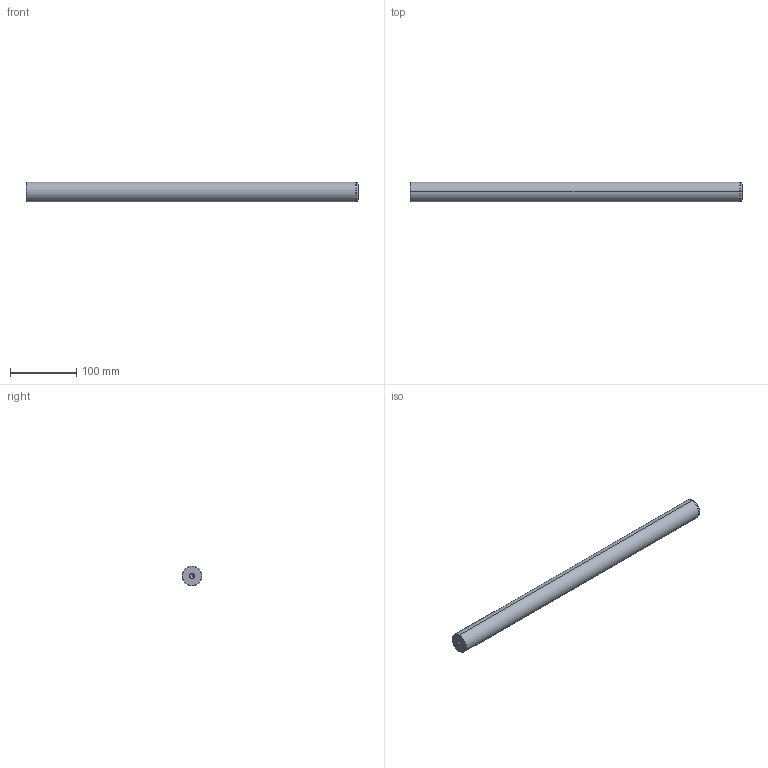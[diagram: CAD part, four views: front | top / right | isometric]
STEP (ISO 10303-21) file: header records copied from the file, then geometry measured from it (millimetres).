
FILE_DESCRIPTION(('CATIA V5 STEP Exchange'),'2;1');
FILE_NAME('C:\Users\Utente\Desktop\IO LAVORO\3D X SITO CF\X SITO\720\720-30x500.stp','2021-01-01T12:22:13+00:00',('none'),('none'),'CATIA Version 5 Release 20 GA (IN-10)','CATIA V5 STEP AP203','none');
FILE_SCHEMA(('CONFIG_CONTROL_DESIGN'));
Length unit declared in the file: millimetre
Products named in the file (1): 720-30x500
Bounding box: 500 x 30 x 30 mm (x, y, z)
Volume: 351398.3 mm3; surface area: 49334.6 mm2
Topology: 1 solids, 1 shells, 22 faces, 62 edges, 40 vertices
Faces by surface type: cone 12, cylinder 6, plane 2, torus 2
Entity records: 806 total; most frequent: CARTESIAN_POINT 229, ORIENTED_EDGE 116, DIRECTION 93, EDGE_CURVE 58, AXIS2_PLACEMENT_3D 54, VERTEX_POINT 40, CIRCLE 31, EDGE_LOOP 24
